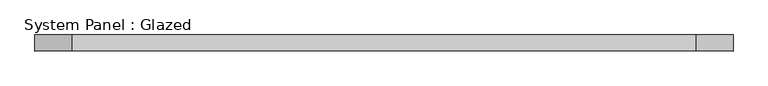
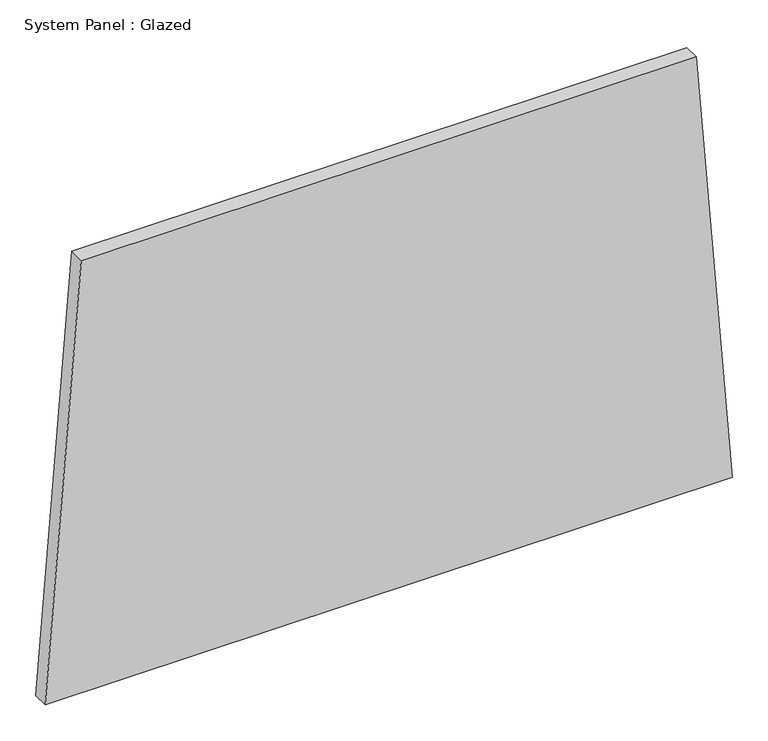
"""IFC4 building model written with IfcOpenShell, lengths in millimetres: plate geometry, System Panel : Glazed."""

from ifc_helpers import new_model, si_unit, frame, origin, place, context, project, spatial, polyline, outline, extrude, source, transform, mapped, element, save


def system_panel_glazed_5fe24ba9(model_context):
    return source(origin(), model_context, "Body", "SweptSolid", [
        extrude(outline(polyline([(0.0, -552.1075977), (0.0, 552.1075977), (734.2389625, 494.1730726), (734.2389625, -494.1730726), (0.0, -552.1075977)])), frame((0.0, -44.45, 0.0), z_axis=(0.0, 1.0, 0.0), x_axis=(0.0, 0.0, 1.0)), (0.0, 0.0, 1.0), 25.4),
    ])


if __name__ == "__main__":
    model = new_model("IFC4")
    model_context = context("Model", 3, world=origin())
    ifc_project = project(units=[si_unit("LENGTHUNIT", "METRE", prefix="MILLI")], contexts=[model_context])
    site = spatial("IfcSite", under=ifc_project)
    building = spatial("IfcBuilding", under=site)
    placement = place(None, origin())
    system_panel_glazed_shape = system_panel_glazed_5fe24ba9(model_context)
    element("IfcPlate", 1, ObjectType="System Panel : Glazed", at=placement, inside=building, context=model_context, shape_type="MappedRepresentation", body=[
        mapped(system_panel_glazed_shape, transform((0.0, 0.0, 0.0), x_axis=(1.0, 0.0, 0.0), y_axis=(0.0, 1.0, 0.0), z_axis=(0.0, 0.0, 1.0))),
    ])
    save(model, "model.ifc")
